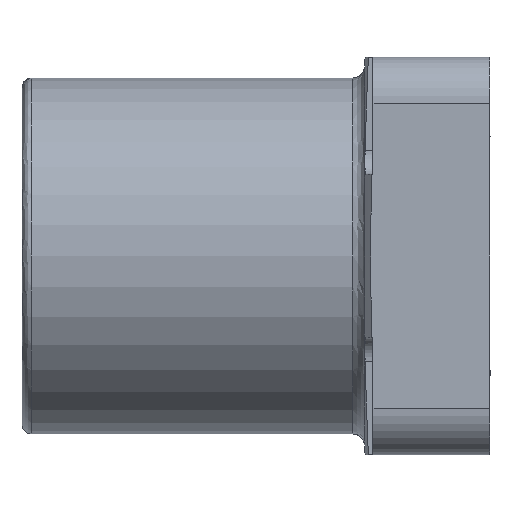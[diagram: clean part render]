
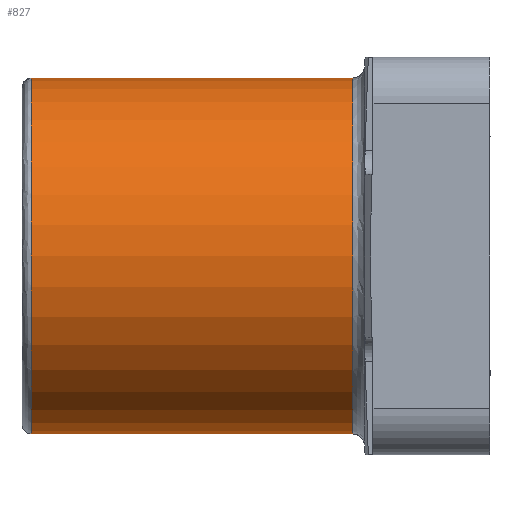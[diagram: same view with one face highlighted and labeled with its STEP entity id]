
A CAD part, left-side view. The second image highlights one B-rep face of the part: STEP entity #827.
In plain terms, the highlighted cylindrical face has radius 38 mm (diameter 76 mm), a partial arc.
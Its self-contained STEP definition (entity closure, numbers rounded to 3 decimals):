
#24 = AXIS2_PLACEMENT_3D ( 'NONE', #4801, #913, #2832 ) ;
#248 = VECTOR ( 'NONE', #2144, 1000. ) ;
#529 = DIRECTION ( 'NONE',  ( 0., 1., 0. ) ) ;
#630 = ORIENTED_EDGE ( 'NONE', *, *, #7774, .T. ) ;
#651 = VERTEX_POINT ( 'NONE', #4442 ) ;
#827 = ADVANCED_FACE ( 'NONE', ( #4799 ), #6057, .T. ) ;
#913 = DIRECTION ( 'NONE',  ( 0., -1., 0. ) ) ;
#915 = EDGE_CURVE ( 'NONE', #651, #3611, #4095, .T. ) ;
#1159 = DIRECTION ( 'NONE',  ( 0., 0., -1. ) ) ;
#1248 = CARTESIAN_POINT ( 'NONE',  ( 0., 100., -38. ) ) ;
#1257 = EDGE_CURVE ( 'NONE', #8007, #6046, #3462, .T. ) ;
#1413 = CIRCLE ( 'NONE', #6873, 38. ) ;
#2019 = CARTESIAN_POINT ( 'NONE',  ( 0., 29.298, 0. ) ) ;
#2144 = DIRECTION ( 'NONE',  ( 0., -1., 0. ) ) ;
#2832 = DIRECTION ( 'NONE',  ( 0., 0., -1. ) ) ;
#3320 = CARTESIAN_POINT ( 'NONE',  ( 0., 29.298, 38. ) ) ;
#3441 = DIRECTION ( 'NONE',  ( 0., 1., 0. ) ) ;
#3462 = LINE ( 'NONE', #6042, #248 ) ;
#3601 = AXIS2_PLACEMENT_3D ( 'NONE', #4488, #529, #1159 ) ;
#3611 = VERTEX_POINT ( 'NONE', #5537 ) ;
#4095 = LINE ( 'NONE', #1248, #4400 ) ;
#4167 = EDGE_LOOP ( 'NONE', ( #6138, #5520, #6889, #630 ) ) ;
#4400 = VECTOR ( 'NONE', #5159, 1000. ) ;
#4442 = CARTESIAN_POINT ( 'NONE',  ( 0., 98., -38. ) ) ;
#4488 = CARTESIAN_POINT ( 'NONE',  ( 0., 98., 0. ) ) ;
#4759 = EDGE_CURVE ( 'NONE', #651, #8007, #4971, .T. ) ;
#4799 = FACE_OUTER_BOUND ( 'NONE', #4167, .T. ) ;
#4801 = CARTESIAN_POINT ( 'NONE',  ( 0., 100., 0. ) ) ;
#4971 = CIRCLE ( 'NONE', #3601, 38. ) ;
#5159 = DIRECTION ( 'NONE',  ( 0., -1., 0. ) ) ;
#5520 = ORIENTED_EDGE ( 'NONE', *, *, #4759, .F. ) ;
#5537 = CARTESIAN_POINT ( 'NONE',  ( 0., 29.298, -38. ) ) ;
#6042 = CARTESIAN_POINT ( 'NONE',  ( 0., 100., 38. ) ) ;
#6046 = VERTEX_POINT ( 'NONE', #3320 ) ;
#6057 = CYLINDRICAL_SURFACE ( 'NONE', #24, 38. ) ;
#6138 = ORIENTED_EDGE ( 'NONE', *, *, #1257, .F. ) ;
#6655 = DIRECTION ( 'NONE',  ( 0., 0., -1. ) ) ;
#6873 = AXIS2_PLACEMENT_3D ( 'NONE', #2019, #3441, #6655 ) ;
#6889 = ORIENTED_EDGE ( 'NONE', *, *, #915, .T. ) ;
#7774 = EDGE_CURVE ( 'NONE', #3611, #6046, #1413, .T. ) ;
#8007 = VERTEX_POINT ( 'NONE', #8280 ) ;
#8280 = CARTESIAN_POINT ( 'NONE',  ( 0., 98., 38. ) ) ;
